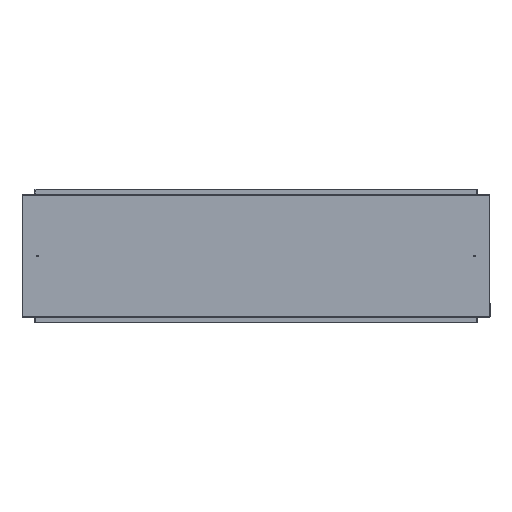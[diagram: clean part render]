
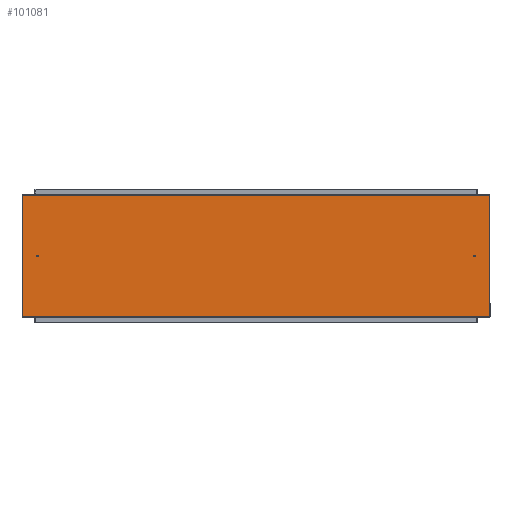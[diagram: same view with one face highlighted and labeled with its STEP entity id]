
A CAD part, left-side view. The second image highlights one B-rep face of the part: STEP entity #101081.
In plain terms, the highlighted planar face has unit normal (-1, 0, 0) as drawn and (0, 0, -1) by its records, which use the part's own axes.
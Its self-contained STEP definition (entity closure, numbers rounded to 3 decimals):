
#326 = CARTESIAN_POINT ( 'NONE',  ( -233.49, 898.5, 0. ) ) ;
#3311 = CARTESIAN_POINT ( 'NONE',  ( -233.49, -898.5, 0. ) ) ;
#6908 = VERTEX_POINT ( 'NONE', #54652 ) ;
#7705 = CARTESIAN_POINT ( 'NONE',  ( -233.49, -898.5, 0. ) ) ;
#10643 = ORIENTED_EDGE ( 'NONE', *, *, #34853, .F. ) ;
#13313 = VECTOR ( 'NONE', #84598, 1000. ) ;
#21180 = DIRECTION ( 'NONE',  ( 0., -1., 0. ) ) ;
#22135 = ORIENTED_EDGE ( 'NONE', *, *, #48150, .F. ) ;
#28277 = LINE ( 'NONE', #56134, #96812 ) ;
#33065 = EDGE_LOOP ( 'NONE', ( #74074, #10643, #81429, #22135 ) ) ;
#34853 = EDGE_CURVE ( 'NONE', #79882, #6908, #96186, .T. ) ;
#37138 = VERTEX_POINT ( 'NONE', #72608 ) ;
#38021 = CARTESIAN_POINT ( 'NONE',  ( -233.49, 898.5, 0. ) ) ;
#38693 = DIRECTION ( 'NONE',  ( 0., 1., 0. ) ) ;
#42020 = FACE_OUTER_BOUND ( 'NONE', #33065, .T. ) ;
#43156 = DIRECTION ( 'NONE',  ( 1., 0., 0. ) ) ;
#46678 = VECTOR ( 'NONE', #53172, 1000. ) ;
#47057 = CARTESIAN_POINT ( 'NONE',  ( 233.49, 898.5, 0. ) ) ;
#47889 = LINE ( 'NONE', #38021, #65868 ) ;
#48150 = EDGE_CURVE ( 'NONE', #112303, #37138, #73605, .T. ) ;
#53172 = DIRECTION ( 'NONE',  ( -1., 0., 0. ) ) ;
#54652 = CARTESIAN_POINT ( 'NONE',  ( -233.49, 898.5, 0. ) ) ;
#56134 = CARTESIAN_POINT ( 'NONE',  ( 233.49, 898.5, 0. ) ) ;
#65868 = VECTOR ( 'NONE', #21180, 1000. ) ;
#66935 = EDGE_CURVE ( 'NONE', #37138, #79882, #28277, .T. ) ;
#71037 = PLANE ( 'NONE',  #110461 ) ;
#72608 = CARTESIAN_POINT ( 'NONE',  ( 233.49, -898.5, 0. ) ) ;
#73605 = LINE ( 'NONE', #3311, #13313 ) ;
#74074 = ORIENTED_EDGE ( 'NONE', *, *, #100776, .F. ) ;
#75346 = CARTESIAN_POINT ( 'NONE',  ( -233.49, -898.5, 0. ) ) ;
#79882 = VERTEX_POINT ( 'NONE', #47057 ) ;
#81429 = ORIENTED_EDGE ( 'NONE', *, *, #66935, .F. ) ;
#84598 = DIRECTION ( 'NONE',  ( 1., 0., 0. ) ) ;
#96186 = LINE ( 'NONE', #326, #46678 ) ;
#96812 = VECTOR ( 'NONE', #38693, 1000. ) ;
#100776 = EDGE_CURVE ( 'NONE', #6908, #112303, #47889, .T. ) ;
#101081 = ADVANCED_FACE ( 'NONE', ( #42020 ), #71037, .F. ) ;
#110461 = AXIS2_PLACEMENT_3D ( 'NONE', #7705, #112887, #43156 ) ;
#112303 = VERTEX_POINT ( 'NONE', #75346 ) ;
#112887 = DIRECTION ( 'NONE',  ( 0., 0., 1. ) ) ;
